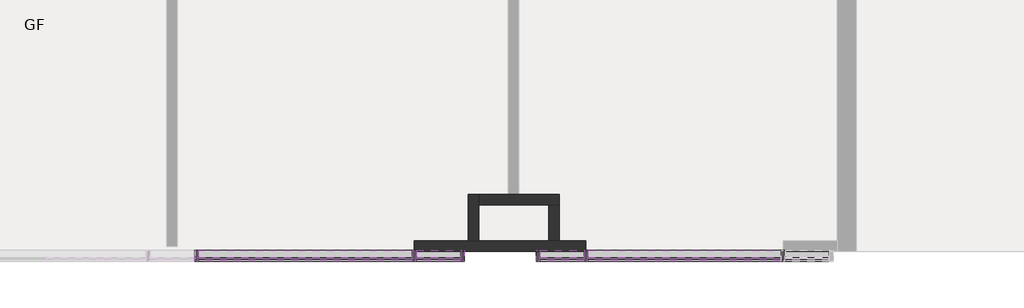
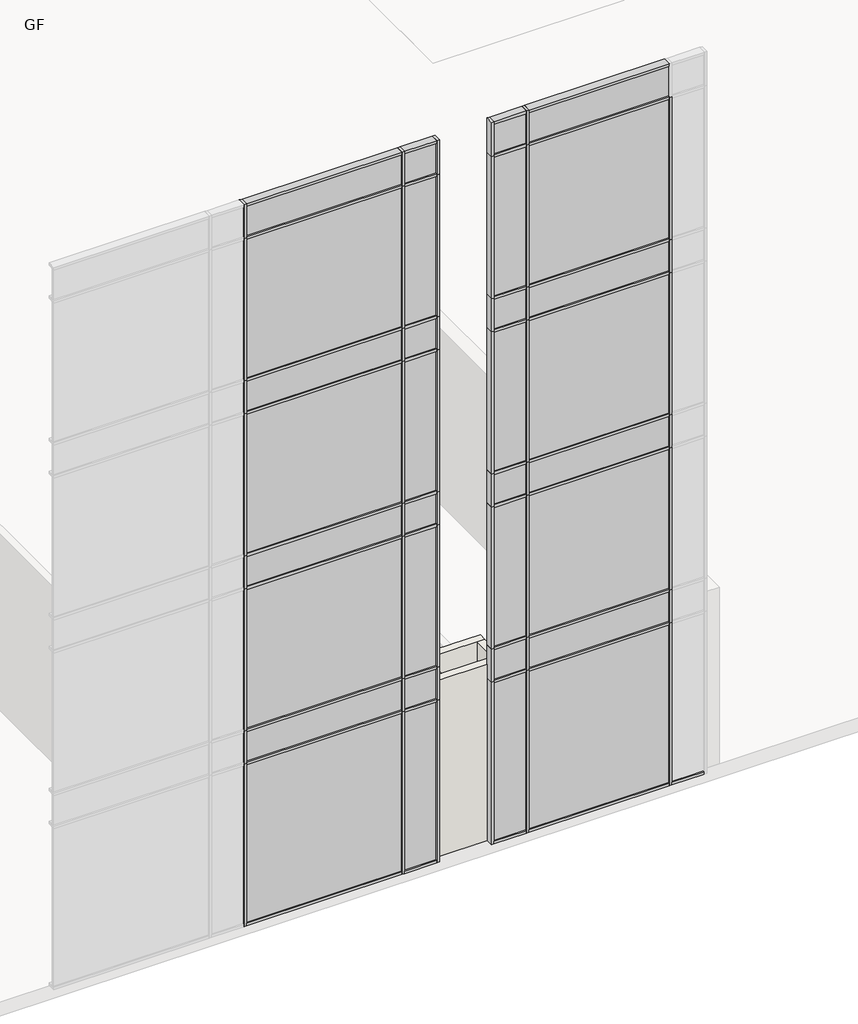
# One storey, part 10 of 23: 84 members, 32 plates, 4 walls.
"""IFC4 building model written with IfcOpenShell, lengths in millimetres."""

from ifc_helpers import new_model, si_unit, frame, origin, place, context, project, spatial, polyline, outline, extrude, faceted_brep, transform, mapped, element, save
from components import rectangular_mullion_50_x_150mm_64d38db8, rectangular_mullion_50_x_150mm_68b3818a, rectangular_mullion_50_x_150mm_350c86c2, rectangular_mullion_50_x_150mm_f245f1eb, rectangular_mullion_50_x_150mm_5fdcfccd, rectangular_mullion_50_x_150mm_d11e3bb4, rectangular_mullion_50_x_150mm_7d543e93, rectangular_mullion_50_x_150mm_9e0f1e24, rectangular_mullion_50_x_150mm_a95743fc, rectangular_mullion_50_x_150mm_dbb82e9e, rectangular_mullion_50_x_150mm_32aaa733, rectangular_mullion_50_x_150mm_9b8962c0, rectangular_mullion_50_x_150mm_7dcb5a67, rectangular_mullion_50_x_150mm_f1d86669, system_panel_glazed_f9f902e6, system_panel_glazed_bf1ddb54, system_panel_glazed_6ff5b55b, system_panel_glazed_2a2db0e8, system_panel_glazed_93ed122c, system_panel_glazed_c1421171, system_panel_glazed_66c44f38, system_panel_glazed_399b1310, system_panel_glazed_5ec2e07d

model = new_model("IFC4")

# Units and contexts
model_context = context("Model", 3, world=origin())
ifc_project = project(units=[si_unit("LENGTHUNIT", "METRE", prefix="MILLI")], contexts=[model_context])

# Site, building, storey
site = spatial("IfcSite", under=ifc_project)
building = spatial("IfcBuilding", under=site)
storey = spatial("IfcBuildingStorey", under=building, Name="GF", Elevation=900.0)

# Members
placement = place(None, origin())
rectangular_mullion_50_x_150mm_shape = rectangular_mullion_50_x_150mm_64d38db8(model_context)
element("IfcMember", 1, ObjectType="Rectangular Mullion : 50 x 150mm", at=placement, inside=storey, context=model_context, shape_type="MappedRepresentation", body=[
    mapped(rectangular_mullion_50_x_150mm_shape, transform((25122.4134101, -25897.6148653, 15125.0), x_axis=(0.0, 0.0, 1.0), y_axis=(0.0, -1.0, 0.0), z_axis=(1.0, 0.0, 0.0))),
])
element("IfcMember", 2, ObjectType="Rectangular Mullion : 50 x 150mm", at=placement, inside=storey, context=model_context, shape_type="MappedRepresentation", body=[
    mapped(rectangular_mullion_50_x_150mm_shape, transform((23452.4134101, -25897.6148653, 15125.0), x_axis=(0.0, 0.0, 1.0), y_axis=(0.0, -1.0, 0.0), z_axis=(1.0, 0.0, 0.0))),
])
element("IfcMember", 3, ObjectType="Rectangular Mullion : 50 x 150mm", at=placement, inside=storey, context=model_context, shape_type="MappedRepresentation", body=[
    mapped(rectangular_mullion_50_x_150mm_shape, transform((24522.4134101, -25897.6148653, 900.0), x_axis=(0.0, 0.0, -1.0), y_axis=(0.0, -1.0, 0.0), z_axis=(-1.0, 0.0, 0.0))),
])
element("IfcMember", 4, ObjectType="Rectangular Mullion : 50 x 150mm", at=placement, inside=storey, context=model_context, shape_type="MappedRepresentation", body=[
    mapped(rectangular_mullion_50_x_150mm_shape, transform((27837.4134101, -25897.6148653, 900.0), x_axis=(0.0, 0.0, -1.0), y_axis=(0.0, -1.0, 0.0), z_axis=(-1.0, 0.0, 0.0))),
])
element("IfcMember", 5, ObjectType="Rectangular Mullion : 50 x 150mm", at=placement, inside=storey, context=model_context, shape_type="MappedRepresentation", body=[
    mapped(rectangular_mullion_50_x_150mm_shape, transform((22852.4134101, -25897.6148653, 900.0), x_axis=(0.0, 0.0, -1.0), y_axis=(0.0, -1.0, 0.0), z_axis=(-1.0, 0.0, 0.0))),
])
rectangular_mullion_50_x_150mm_2_shape = rectangular_mullion_50_x_150mm_68b3818a(model_context)
element("IfcMember", 6, ObjectType="Rectangular Mullion : 50 x 150mm", at=placement, inside=storey, context=model_context, shape_type="MappedRepresentation", body=[
    mapped(rectangular_mullion_50_x_150mm_2_shape, transform((25122.4134101, -25897.6148653, 4750.0), x_axis=(0.0, 0.0, 1.0), y_axis=(0.0, -1.0, 0.0), z_axis=(1.0, 0.0, 0.0))),
])
element("IfcMember", 7, ObjectType="Rectangular Mullion : 50 x 150mm", at=placement, inside=storey, context=model_context, shape_type="MappedRepresentation", body=[
    mapped(rectangular_mullion_50_x_150mm_2_shape, transform((25122.4134101, -25897.6148653, 4100.0), x_axis=(0.0, 0.0, 1.0), y_axis=(0.0, -1.0, 0.0), z_axis=(1.0, 0.0, 0.0))),
])
element("IfcMember", 8, ObjectType="Rectangular Mullion : 50 x 150mm", at=placement, inside=storey, context=model_context, shape_type="MappedRepresentation", body=[
    mapped(rectangular_mullion_50_x_150mm_2_shape, transform((25122.4134101, -25897.6148653, 8200.0), x_axis=(0.0, 0.0, 1.0), y_axis=(0.0, -1.0, 0.0), z_axis=(1.0, 0.0, 0.0))),
])
element("IfcMember", 9, ObjectType="Rectangular Mullion : 50 x 150mm", at=placement, inside=storey, context=model_context, shape_type="MappedRepresentation", body=[
    mapped(rectangular_mullion_50_x_150mm_2_shape, transform((25122.4134101, -25897.6148653, 11650.0), x_axis=(0.0, 0.0, 1.0), y_axis=(0.0, -1.0, 0.0), z_axis=(1.0, 0.0, 0.0))),
])
element("IfcMember", 10, ObjectType="Rectangular Mullion : 50 x 150mm", at=placement, inside=storey, context=model_context, shape_type="MappedRepresentation", body=[
    mapped(rectangular_mullion_50_x_150mm_2_shape, transform((25122.4134101, -25897.6148653, 7550.0), x_axis=(0.0, 0.0, 1.0), y_axis=(0.0, -1.0, 0.0), z_axis=(1.0, 0.0, 0.0))),
])
element("IfcMember", 11, ObjectType="Rectangular Mullion : 50 x 150mm", at=placement, inside=storey, context=model_context, shape_type="MappedRepresentation", body=[
    mapped(rectangular_mullion_50_x_150mm_2_shape, transform((25122.4134101, -25897.6148653, 11000.0), x_axis=(0.0, 0.0, 1.0), y_axis=(0.0, -1.0, 0.0), z_axis=(1.0, 0.0, 0.0))),
])
element("IfcMember", 12, ObjectType="Rectangular Mullion : 50 x 150mm", at=placement, inside=storey, context=model_context, shape_type="MappedRepresentation", body=[
    mapped(rectangular_mullion_50_x_150mm_2_shape, transform((25122.4134101, -25897.6148653, 14450.0), x_axis=(0.0, 0.0, 1.0), y_axis=(0.0, -1.0, 0.0), z_axis=(1.0, 0.0, 0.0))),
])
element("IfcMember", 13, ObjectType="Rectangular Mullion : 50 x 150mm", at=placement, inside=storey, context=model_context, shape_type="MappedRepresentation", body=[
    mapped(rectangular_mullion_50_x_150mm_2_shape, transform((23452.4134101, -25897.6148653, 4100.0), x_axis=(0.0, 0.0, 1.0), y_axis=(0.0, -1.0, 0.0), z_axis=(1.0, 0.0, 0.0))),
])
element("IfcMember", 14, ObjectType="Rectangular Mullion : 50 x 150mm", at=placement, inside=storey, context=model_context, shape_type="MappedRepresentation", body=[
    mapped(rectangular_mullion_50_x_150mm_2_shape, transform((23452.4134101, -25897.6148653, 4750.0), x_axis=(0.0, 0.0, 1.0), y_axis=(0.0, -1.0, 0.0), z_axis=(1.0, 0.0, 0.0))),
])
element("IfcMember", 15, ObjectType="Rectangular Mullion : 50 x 150mm", at=placement, inside=storey, context=model_context, shape_type="MappedRepresentation", body=[
    mapped(rectangular_mullion_50_x_150mm_2_shape, transform((23452.4134101, -25897.6148653, 7550.0), x_axis=(0.0, 0.0, 1.0), y_axis=(0.0, -1.0, 0.0), z_axis=(1.0, 0.0, 0.0))),
])
element("IfcMember", 16, ObjectType="Rectangular Mullion : 50 x 150mm", at=placement, inside=storey, context=model_context, shape_type="MappedRepresentation", body=[
    mapped(rectangular_mullion_50_x_150mm_2_shape, transform((23452.4134101, -25897.6148653, 8200.0), x_axis=(0.0, 0.0, 1.0), y_axis=(0.0, -1.0, 0.0), z_axis=(1.0, 0.0, 0.0))),
])
element("IfcMember", 17, ObjectType="Rectangular Mullion : 50 x 150mm", at=placement, inside=storey, context=model_context, shape_type="MappedRepresentation", body=[
    mapped(rectangular_mullion_50_x_150mm_2_shape, transform((23452.4134101, -25897.6148653, 11000.0), x_axis=(0.0, 0.0, 1.0), y_axis=(0.0, -1.0, 0.0), z_axis=(1.0, 0.0, 0.0))),
])
element("IfcMember", 18, ObjectType="Rectangular Mullion : 50 x 150mm", at=placement, inside=storey, context=model_context, shape_type="MappedRepresentation", body=[
    mapped(rectangular_mullion_50_x_150mm_2_shape, transform((23452.4134101, -25897.6148653, 11650.0), x_axis=(0.0, 0.0, 1.0), y_axis=(0.0, -1.0, 0.0), z_axis=(1.0, 0.0, 0.0))),
])
element("IfcMember", 19, ObjectType="Rectangular Mullion : 50 x 150mm", at=placement, inside=storey, context=model_context, shape_type="MappedRepresentation", body=[
    mapped(rectangular_mullion_50_x_150mm_2_shape, transform((23452.4134101, -25897.6148653, 14450.0), x_axis=(0.0, 0.0, 1.0), y_axis=(0.0, -1.0, 0.0), z_axis=(1.0, 0.0, 0.0))),
])
rectangular_mullion_50_x_150mm_3_shape = rectangular_mullion_50_x_150mm_350c86c2(model_context)
element("IfcMember", 20, ObjectType="Rectangular Mullion : 50 x 150mm", at=placement, inside=storey, context=model_context, shape_type="MappedRepresentation", body=[
    mapped(rectangular_mullion_50_x_150mm_3_shape, transform((25172.4134101, -25897.6148653, 900.0), x_axis=(0.0, 0.0, -1.0), y_axis=(0.0, -1.0, 0.0), z_axis=(-1.0, 0.0, 0.0))),
])
rectangular_mullion_50_x_150mm_4_shape = rectangular_mullion_50_x_150mm_f245f1eb(model_context)
element("IfcMember", 21, ObjectType="Rectangular Mullion : 50 x 150mm", at=placement, inside=storey, context=model_context, shape_type="MappedRepresentation", body=[
    mapped(rectangular_mullion_50_x_150mm_4_shape, transform((25147.4134101, -25897.6148653, 900.0), x_axis=(1.0, 0.0, 0.0), y_axis=(0.0, -1.0, 0.0), z_axis=(0.0, 0.0, -1.0))),
])
element("IfcMember", 22, ObjectType="Rectangular Mullion : 50 x 150mm", at=placement, inside=storey, context=model_context, shape_type="MappedRepresentation", body=[
    mapped(rectangular_mullion_50_x_150mm_4_shape, transform((27812.4134101, -25897.6148653, 900.0), x_axis=(1.0, 0.0, 0.0), y_axis=(0.0, -1.0, 0.0), z_axis=(0.0, 0.0, -1.0))),
])
element("IfcMember", 23, ObjectType="Rectangular Mullion : 50 x 150mm", at=placement, inside=storey, context=model_context, shape_type="MappedRepresentation", body=[
    mapped(rectangular_mullion_50_x_150mm_4_shape, transform((19882.4134101, -25897.6148653, 900.0), x_axis=(1.0, 0.0, 0.0), y_axis=(0.0, -1.0, 0.0), z_axis=(0.0, 0.0, -1.0))),
])
element("IfcMember", 24, ObjectType="Rectangular Mullion : 50 x 150mm", at=placement, inside=storey, context=model_context, shape_type="MappedRepresentation", body=[
    mapped(rectangular_mullion_50_x_150mm_4_shape, transform((22827.4134101, -25897.6148653, 900.0), x_axis=(1.0, 0.0, 0.0), y_axis=(0.0, -1.0, 0.0), z_axis=(0.0, 0.0, -1.0))),
])
element("IfcMember", 25, ObjectType="Rectangular Mullion : 50 x 150mm", at=placement, inside=storey, context=model_context, shape_type="MappedRepresentation", body=[
    mapped(rectangular_mullion_50_x_150mm_3_shape, transform((27787.4134101, -25897.6148653, 15125.0), x_axis=(0.0, 0.0, 1.0), y_axis=(0.0, -1.0, 0.0), z_axis=(1.0, 0.0, 0.0))),
])
rectangular_mullion_50_x_150mm_5_shape = rectangular_mullion_50_x_150mm_5fdcfccd(model_context)
element("IfcMember", 26, ObjectType="Rectangular Mullion : 50 x 150mm", at=placement, inside=storey, context=model_context, shape_type="MappedRepresentation", body=[
    mapped(rectangular_mullion_50_x_150mm_5_shape, transform((27787.4134101, -25897.6148653, 4750.0), x_axis=(0.0, 0.0, 1.0), y_axis=(0.0, -1.0, 0.0), z_axis=(1.0, 0.0, 0.0))),
])
element("IfcMember", 27, ObjectType="Rectangular Mullion : 50 x 150mm", at=placement, inside=storey, context=model_context, shape_type="MappedRepresentation", body=[
    mapped(rectangular_mullion_50_x_150mm_5_shape, transform((27787.4134101, -25897.6148653, 4100.0), x_axis=(0.0, 0.0, 1.0), y_axis=(0.0, -1.0, 0.0), z_axis=(1.0, 0.0, 0.0))),
])
element("IfcMember", 28, ObjectType="Rectangular Mullion : 50 x 150mm", at=placement, inside=storey, context=model_context, shape_type="MappedRepresentation", body=[
    mapped(rectangular_mullion_50_x_150mm_5_shape, transform((27787.4134101, -25897.6148653, 8200.0), x_axis=(0.0, 0.0, 1.0), y_axis=(0.0, -1.0, 0.0), z_axis=(1.0, 0.0, 0.0))),
])
element("IfcMember", 29, ObjectType="Rectangular Mullion : 50 x 150mm", at=placement, inside=storey, context=model_context, shape_type="MappedRepresentation", body=[
    mapped(rectangular_mullion_50_x_150mm_5_shape, transform((27787.4134101, -25897.6148653, 11650.0), x_axis=(0.0, 0.0, 1.0), y_axis=(0.0, -1.0, 0.0), z_axis=(1.0, 0.0, 0.0))),
])
element("IfcMember", 30, ObjectType="Rectangular Mullion : 50 x 150mm", at=placement, inside=storey, context=model_context, shape_type="MappedRepresentation", body=[
    mapped(rectangular_mullion_50_x_150mm_5_shape, transform((27787.4134101, -25897.6148653, 7550.0), x_axis=(0.0, 0.0, 1.0), y_axis=(0.0, -1.0, 0.0), z_axis=(1.0, 0.0, 0.0))),
])
element("IfcMember", 31, ObjectType="Rectangular Mullion : 50 x 150mm", at=placement, inside=storey, context=model_context, shape_type="MappedRepresentation", body=[
    mapped(rectangular_mullion_50_x_150mm_5_shape, transform((27787.4134101, -25897.6148653, 11000.0), x_axis=(0.0, 0.0, 1.0), y_axis=(0.0, -1.0, 0.0), z_axis=(1.0, 0.0, 0.0))),
])
element("IfcMember", 32, ObjectType="Rectangular Mullion : 50 x 150mm", at=placement, inside=storey, context=model_context, shape_type="MappedRepresentation", body=[
    mapped(rectangular_mullion_50_x_150mm_5_shape, transform((27787.4134101, -25897.6148653, 14450.0), x_axis=(0.0, 0.0, 1.0), y_axis=(0.0, -1.0, 0.0), z_axis=(1.0, 0.0, 0.0))),
])
rectangular_mullion_50_x_150mm_6_shape = rectangular_mullion_50_x_150mm_d11e3bb4(model_context)
element("IfcMember", 33, ObjectType="Rectangular Mullion : 50 x 150mm", at=placement, inside=storey, context=model_context, shape_type="MappedRepresentation", body=[
    mapped(rectangular_mullion_50_x_150mm_6_shape, transform((25147.4134101, -25897.6148653, 4750.0), x_axis=(1.0, 0.0, 0.0), y_axis=(0.0, -1.0, 0.0), z_axis=(0.0, 0.0, -1.0))),
])
element("IfcMember", 34, ObjectType="Rectangular Mullion : 50 x 150mm", at=placement, inside=storey, context=model_context, shape_type="MappedRepresentation", body=[
    mapped(rectangular_mullion_50_x_150mm_6_shape, transform((27812.4134101, -25897.6148653, 4750.0), x_axis=(1.0, 0.0, 0.0), y_axis=(0.0, -1.0, 0.0), z_axis=(0.0, 0.0, -1.0))),
])
element("IfcMember", 35, ObjectType="Rectangular Mullion : 50 x 150mm", at=placement, inside=storey, context=model_context, shape_type="MappedRepresentation", body=[
    mapped(rectangular_mullion_50_x_150mm_6_shape, transform((25147.4134101, -25897.6148653, 8200.0), x_axis=(1.0, 0.0, 0.0), y_axis=(0.0, -1.0, 0.0), z_axis=(0.0, 0.0, -1.0))),
])
element("IfcMember", 36, ObjectType="Rectangular Mullion : 50 x 150mm", at=placement, inside=storey, context=model_context, shape_type="MappedRepresentation", body=[
    mapped(rectangular_mullion_50_x_150mm_6_shape, transform((27812.4134101, -25897.6148653, 8200.0), x_axis=(1.0, 0.0, 0.0), y_axis=(0.0, -1.0, 0.0), z_axis=(0.0, 0.0, -1.0))),
])
element("IfcMember", 37, ObjectType="Rectangular Mullion : 50 x 150mm", at=placement, inside=storey, context=model_context, shape_type="MappedRepresentation", body=[
    mapped(rectangular_mullion_50_x_150mm_6_shape, transform((25147.4134101, -25897.6148653, 11650.0), x_axis=(1.0, 0.0, 0.0), y_axis=(0.0, -1.0, 0.0), z_axis=(0.0, 0.0, -1.0))),
])
element("IfcMember", 38, ObjectType="Rectangular Mullion : 50 x 150mm", at=placement, inside=storey, context=model_context, shape_type="MappedRepresentation", body=[
    mapped(rectangular_mullion_50_x_150mm_6_shape, transform((27812.4134101, -25897.6148653, 11650.0), x_axis=(1.0, 0.0, 0.0), y_axis=(0.0, -1.0, 0.0), z_axis=(0.0, 0.0, -1.0))),
])
element("IfcMember", 39, ObjectType="Rectangular Mullion : 50 x 150mm", at=placement, inside=storey, context=model_context, shape_type="MappedRepresentation", body=[
    mapped(rectangular_mullion_50_x_150mm_6_shape, transform((19882.4134101, -25897.6148653, 4750.0), x_axis=(1.0, 0.0, 0.0), y_axis=(0.0, -1.0, 0.0), z_axis=(0.0, 0.0, -1.0))),
])
element("IfcMember", 40, ObjectType="Rectangular Mullion : 50 x 150mm", at=placement, inside=storey, context=model_context, shape_type="MappedRepresentation", body=[
    mapped(rectangular_mullion_50_x_150mm_6_shape, transform((19882.4134101, -25897.6148653, 8200.0), x_axis=(1.0, 0.0, 0.0), y_axis=(0.0, -1.0, 0.0), z_axis=(0.0, 0.0, -1.0))),
])
element("IfcMember", 41, ObjectType="Rectangular Mullion : 50 x 150mm", at=placement, inside=storey, context=model_context, shape_type="MappedRepresentation", body=[
    mapped(rectangular_mullion_50_x_150mm_6_shape, transform((19882.4134101, -25897.6148653, 11650.0), x_axis=(1.0, 0.0, 0.0), y_axis=(0.0, -1.0, 0.0), z_axis=(0.0, 0.0, -1.0))),
])
element("IfcMember", 42, ObjectType="Rectangular Mullion : 50 x 150mm", at=placement, inside=storey, context=model_context, shape_type="MappedRepresentation", body=[
    mapped(rectangular_mullion_50_x_150mm_6_shape, transform((22827.4134101, -25897.6148653, 4750.0), x_axis=(1.0, 0.0, 0.0), y_axis=(0.0, -1.0, 0.0), z_axis=(0.0, 0.0, -1.0))),
])
element("IfcMember", 43, ObjectType="Rectangular Mullion : 50 x 150mm", at=placement, inside=storey, context=model_context, shape_type="MappedRepresentation", body=[
    mapped(rectangular_mullion_50_x_150mm_6_shape, transform((22827.4134101, -25897.6148653, 8200.0), x_axis=(1.0, 0.0, 0.0), y_axis=(0.0, -1.0, 0.0), z_axis=(0.0, 0.0, -1.0))),
])
element("IfcMember", 44, ObjectType="Rectangular Mullion : 50 x 150mm", at=placement, inside=storey, context=model_context, shape_type="MappedRepresentation", body=[
    mapped(rectangular_mullion_50_x_150mm_6_shape, transform((22827.4134101, -25897.6148653, 11650.0), x_axis=(1.0, 0.0, 0.0), y_axis=(0.0, -1.0, 0.0), z_axis=(0.0, 0.0, -1.0))),
])
rectangular_mullion_50_x_150mm_7_shape = rectangular_mullion_50_x_150mm_7d543e93(model_context)
element("IfcMember", 45, ObjectType="Rectangular Mullion : 50 x 150mm", at=placement, inside=storey, context=model_context, shape_type="MappedRepresentation", body=[
    mapped(rectangular_mullion_50_x_150mm_7_shape, transform((25147.4134101, -25897.6148653, 4100.0), x_axis=(1.0, 0.0, 0.0), y_axis=(0.0, -1.0, 0.0), z_axis=(0.0, 0.0, -1.0))),
])
element("IfcMember", 46, ObjectType="Rectangular Mullion : 50 x 150mm", at=placement, inside=storey, context=model_context, shape_type="MappedRepresentation", body=[
    mapped(rectangular_mullion_50_x_150mm_7_shape, transform((27812.4134101, -25897.6148653, 4100.0), x_axis=(1.0, 0.0, 0.0), y_axis=(0.0, -1.0, 0.0), z_axis=(0.0, 0.0, -1.0))),
])
element("IfcMember", 47, ObjectType="Rectangular Mullion : 50 x 150mm", at=placement, inside=storey, context=model_context, shape_type="MappedRepresentation", body=[
    mapped(rectangular_mullion_50_x_150mm_7_shape, transform((25147.4134101, -25897.6148653, 7550.0), x_axis=(1.0, 0.0, 0.0), y_axis=(0.0, -1.0, 0.0), z_axis=(0.0, 0.0, -1.0))),
])
element("IfcMember", 48, ObjectType="Rectangular Mullion : 50 x 150mm", at=placement, inside=storey, context=model_context, shape_type="MappedRepresentation", body=[
    mapped(rectangular_mullion_50_x_150mm_7_shape, transform((27812.4134101, -25897.6148653, 7550.0), x_axis=(1.0, 0.0, 0.0), y_axis=(0.0, -1.0, 0.0), z_axis=(0.0, 0.0, -1.0))),
])
element("IfcMember", 49, ObjectType="Rectangular Mullion : 50 x 150mm", at=placement, inside=storey, context=model_context, shape_type="MappedRepresentation", body=[
    mapped(rectangular_mullion_50_x_150mm_7_shape, transform((25147.4134101, -25897.6148653, 11000.0), x_axis=(1.0, 0.0, 0.0), y_axis=(0.0, -1.0, 0.0), z_axis=(0.0, 0.0, -1.0))),
])
element("IfcMember", 50, ObjectType="Rectangular Mullion : 50 x 150mm", at=placement, inside=storey, context=model_context, shape_type="MappedRepresentation", body=[
    mapped(rectangular_mullion_50_x_150mm_7_shape, transform((27812.4134101, -25897.6148653, 11000.0), x_axis=(1.0, 0.0, 0.0), y_axis=(0.0, -1.0, 0.0), z_axis=(0.0, 0.0, -1.0))),
])
element("IfcMember", 51, ObjectType="Rectangular Mullion : 50 x 150mm", at=placement, inside=storey, context=model_context, shape_type="MappedRepresentation", body=[
    mapped(rectangular_mullion_50_x_150mm_7_shape, transform((19882.4134101, -25897.6148653, 4100.0), x_axis=(1.0, 0.0, 0.0), y_axis=(0.0, -1.0, 0.0), z_axis=(0.0, 0.0, -1.0))),
])
element("IfcMember", 52, ObjectType="Rectangular Mullion : 50 x 150mm", at=placement, inside=storey, context=model_context, shape_type="MappedRepresentation", body=[
    mapped(rectangular_mullion_50_x_150mm_7_shape, transform((19882.4134101, -25897.6148653, 7550.0), x_axis=(1.0, 0.0, 0.0), y_axis=(0.0, -1.0, 0.0), z_axis=(0.0, 0.0, -1.0))),
])
element("IfcMember", 53, ObjectType="Rectangular Mullion : 50 x 150mm", at=placement, inside=storey, context=model_context, shape_type="MappedRepresentation", body=[
    mapped(rectangular_mullion_50_x_150mm_7_shape, transform((19882.4134101, -25897.6148653, 11000.0), x_axis=(1.0, 0.0, 0.0), y_axis=(0.0, -1.0, 0.0), z_axis=(0.0, 0.0, -1.0))),
])
element("IfcMember", 54, ObjectType="Rectangular Mullion : 50 x 150mm", at=placement, inside=storey, context=model_context, shape_type="MappedRepresentation", body=[
    mapped(rectangular_mullion_50_x_150mm_7_shape, transform((22827.4134101, -25897.6148653, 4100.0), x_axis=(1.0, 0.0, 0.0), y_axis=(0.0, -1.0, 0.0), z_axis=(0.0, 0.0, -1.0))),
])
element("IfcMember", 55, ObjectType="Rectangular Mullion : 50 x 150mm", at=placement, inside=storey, context=model_context, shape_type="MappedRepresentation", body=[
    mapped(rectangular_mullion_50_x_150mm_7_shape, transform((22827.4134101, -25897.6148653, 7550.0), x_axis=(1.0, 0.0, 0.0), y_axis=(0.0, -1.0, 0.0), z_axis=(0.0, 0.0, -1.0))),
])
element("IfcMember", 56, ObjectType="Rectangular Mullion : 50 x 150mm", at=placement, inside=storey, context=model_context, shape_type="MappedRepresentation", body=[
    mapped(rectangular_mullion_50_x_150mm_7_shape, transform((22827.4134101, -25897.6148653, 11000.0), x_axis=(1.0, 0.0, 0.0), y_axis=(0.0, -1.0, 0.0), z_axis=(0.0, 0.0, -1.0))),
])
rectangular_mullion_50_x_150mm_8_shape = rectangular_mullion_50_x_150mm_9e0f1e24(model_context)
element("IfcMember", 57, ObjectType="Rectangular Mullion : 50 x 150mm", at=placement, inside=storey, context=model_context, shape_type="MappedRepresentation", body=[
    mapped(rectangular_mullion_50_x_150mm_8_shape, transform((25147.4134101, -25897.6148653, 14450.0), x_axis=(1.0, 0.0, 0.0), y_axis=(0.0, -1.0, 0.0), z_axis=(0.0, 0.0, -1.0))),
])
element("IfcMember", 58, ObjectType="Rectangular Mullion : 50 x 150mm", at=placement, inside=storey, context=model_context, shape_type="MappedRepresentation", body=[
    mapped(rectangular_mullion_50_x_150mm_8_shape, transform((19882.4134101, -25897.6148653, 14450.0), x_axis=(1.0, 0.0, 0.0), y_axis=(0.0, -1.0, 0.0), z_axis=(0.0, 0.0, -1.0))),
])
element("IfcMember", 59, ObjectType="Rectangular Mullion : 50 x 150mm", at=placement, inside=storey, context=model_context, shape_type="MappedRepresentation", body=[
    mapped(rectangular_mullion_50_x_150mm_8_shape, transform((22827.4134101, -25897.6148653, 14450.0), x_axis=(1.0, 0.0, 0.0), y_axis=(0.0, -1.0, 0.0), z_axis=(0.0, 0.0, -1.0))),
])
rectangular_mullion_50_x_150mm_9_shape = rectangular_mullion_50_x_150mm_a95743fc(model_context)
element("IfcMember", 60, ObjectType="Rectangular Mullion : 50 x 150mm", at=placement, inside=storey, context=model_context, shape_type="MappedRepresentation", body=[
    mapped(rectangular_mullion_50_x_150mm_9_shape, transform((23502.4134101, -25897.6148653, 900.0), x_axis=(1.0, 0.0, 0.0), y_axis=(0.0, -1.0, 0.0), z_axis=(0.0, 0.0, -1.0))),
])
rectangular_mullion_50_x_150mm_10_shape = rectangular_mullion_50_x_150mm_dbb82e9e(model_context)
element("IfcMember", 61, ObjectType="Rectangular Mullion : 50 x 150mm", at=placement, inside=storey, context=model_context, shape_type="MappedRepresentation", body=[
    mapped(rectangular_mullion_50_x_150mm_10_shape, transform((24472.4134101, -25897.6148653, 15125.0), x_axis=(-1.0, 0.0, 0.0), y_axis=(0.0, -1.0, 0.0), z_axis=(0.0, 0.0, 1.0))),
])
rectangular_mullion_50_x_150mm_11_shape = rectangular_mullion_50_x_150mm_32aaa733(model_context)
element("IfcMember", 62, ObjectType="Rectangular Mullion : 50 x 150mm", at=placement, inside=storey, context=model_context, shape_type="MappedRepresentation", body=[
    mapped(rectangular_mullion_50_x_150mm_11_shape, transform((23502.4134101, -25897.6148653, 4750.0), x_axis=(1.0, 0.0, 0.0), y_axis=(0.0, -1.0, 0.0), z_axis=(0.0, 0.0, -1.0))),
])
element("IfcMember", 63, ObjectType="Rectangular Mullion : 50 x 150mm", at=placement, inside=storey, context=model_context, shape_type="MappedRepresentation", body=[
    mapped(rectangular_mullion_50_x_150mm_11_shape, transform((23502.4134101, -25897.6148653, 8200.0), x_axis=(1.0, 0.0, 0.0), y_axis=(0.0, -1.0, 0.0), z_axis=(0.0, 0.0, -1.0))),
])
element("IfcMember", 64, ObjectType="Rectangular Mullion : 50 x 150mm", at=placement, inside=storey, context=model_context, shape_type="MappedRepresentation", body=[
    mapped(rectangular_mullion_50_x_150mm_11_shape, transform((23502.4134101, -25897.6148653, 11650.0), x_axis=(1.0, 0.0, 0.0), y_axis=(0.0, -1.0, 0.0), z_axis=(0.0, 0.0, -1.0))),
])
rectangular_mullion_50_x_150mm_12_shape = rectangular_mullion_50_x_150mm_9b8962c0(model_context)
element("IfcMember", 65, ObjectType="Rectangular Mullion : 50 x 150mm", at=placement, inside=storey, context=model_context, shape_type="MappedRepresentation", body=[
    mapped(rectangular_mullion_50_x_150mm_12_shape, transform((24472.4134101, -25897.6148653, 4750.0), x_axis=(-1.0, 0.0, 0.0), y_axis=(0.0, -1.0, 0.0), z_axis=(0.0, 0.0, 1.0))),
])
element("IfcMember", 66, ObjectType="Rectangular Mullion : 50 x 150mm", at=placement, inside=storey, context=model_context, shape_type="MappedRepresentation", body=[
    mapped(rectangular_mullion_50_x_150mm_12_shape, transform((24472.4134101, -25897.6148653, 8200.0), x_axis=(-1.0, 0.0, 0.0), y_axis=(0.0, -1.0, 0.0), z_axis=(0.0, 0.0, 1.0))),
])
element("IfcMember", 67, ObjectType="Rectangular Mullion : 50 x 150mm", at=placement, inside=storey, context=model_context, shape_type="MappedRepresentation", body=[
    mapped(rectangular_mullion_50_x_150mm_12_shape, transform((24472.4134101, -25897.6148653, 11650.0), x_axis=(-1.0, 0.0, 0.0), y_axis=(0.0, -1.0, 0.0), z_axis=(0.0, 0.0, 1.0))),
])
element("IfcMember", 68, ObjectType="Rectangular Mullion : 50 x 150mm", at=placement, inside=storey, context=model_context, shape_type="MappedRepresentation", body=[
    mapped(rectangular_mullion_50_x_150mm_12_shape, transform((23502.4134101, -25897.6148653, 4100.0), x_axis=(1.0, 0.0, 0.0), y_axis=(0.0, -1.0, 0.0), z_axis=(0.0, 0.0, -1.0))),
])
element("IfcMember", 69, ObjectType="Rectangular Mullion : 50 x 150mm", at=placement, inside=storey, context=model_context, shape_type="MappedRepresentation", body=[
    mapped(rectangular_mullion_50_x_150mm_12_shape, transform((23502.4134101, -25897.6148653, 7550.0), x_axis=(1.0, 0.0, 0.0), y_axis=(0.0, -1.0, 0.0), z_axis=(0.0, 0.0, -1.0))),
])
element("IfcMember", 70, ObjectType="Rectangular Mullion : 50 x 150mm", at=placement, inside=storey, context=model_context, shape_type="MappedRepresentation", body=[
    mapped(rectangular_mullion_50_x_150mm_12_shape, transform((23502.4134101, -25897.6148653, 11000.0), x_axis=(1.0, 0.0, 0.0), y_axis=(0.0, -1.0, 0.0), z_axis=(0.0, 0.0, -1.0))),
])
element("IfcMember", 71, ObjectType="Rectangular Mullion : 50 x 150mm", at=placement, inside=storey, context=model_context, shape_type="MappedRepresentation", body=[
    mapped(rectangular_mullion_50_x_150mm_9_shape, transform((24472.4134101, -25897.6148653, 4100.0), x_axis=(-1.0, 0.0, 0.0), y_axis=(0.0, -1.0, 0.0), z_axis=(0.0, 0.0, 1.0))),
])
element("IfcMember", 72, ObjectType="Rectangular Mullion : 50 x 150mm", at=placement, inside=storey, context=model_context, shape_type="MappedRepresentation", body=[
    mapped(rectangular_mullion_50_x_150mm_11_shape, transform((24472.4134101, -25897.6148653, 7550.0), x_axis=(-1.0, 0.0, 0.0), y_axis=(0.0, -1.0, 0.0), z_axis=(0.0, 0.0, 1.0))),
])
element("IfcMember", 73, ObjectType="Rectangular Mullion : 50 x 150mm", at=placement, inside=storey, context=model_context, shape_type="MappedRepresentation", body=[
    mapped(rectangular_mullion_50_x_150mm_11_shape, transform((24472.4134101, -25897.6148653, 11000.0), x_axis=(-1.0, 0.0, 0.0), y_axis=(0.0, -1.0, 0.0), z_axis=(0.0, 0.0, 1.0))),
])
element("IfcMember", 74, ObjectType="Rectangular Mullion : 50 x 150mm", at=placement, inside=storey, context=model_context, shape_type="MappedRepresentation", body=[
    mapped(rectangular_mullion_50_x_150mm_11_shape, transform((24472.4134101, -25897.6148653, 14450.0), x_axis=(-1.0, 0.0, 0.0), y_axis=(0.0, -1.0, 0.0), z_axis=(0.0, 0.0, 1.0))),
])
element("IfcMember", 75, ObjectType="Rectangular Mullion : 50 x 150mm", at=placement, inside=storey, context=model_context, shape_type="MappedRepresentation", body=[
    mapped(rectangular_mullion_50_x_150mm_10_shape, transform((23502.4134101, -25897.6148653, 14450.0), x_axis=(1.0, 0.0, 0.0), y_axis=(0.0, -1.0, 0.0), z_axis=(0.0, 0.0, -1.0))),
])
rectangular_mullion_50_x_150mm_13_shape = rectangular_mullion_50_x_150mm_7dcb5a67(model_context)
element("IfcMember", 76, ObjectType="Rectangular Mullion : 50 x 150mm", at=placement, inside=storey, context=model_context, shape_type="MappedRepresentation", body=[
    mapped(rectangular_mullion_50_x_150mm_13_shape, transform((19907.4134101, -25897.6148653, 900.0), x_axis=(0.0, 0.0, -1.0), y_axis=(0.0, -1.0, 0.0), z_axis=(-1.0, 0.0, 0.0))),
])
element("IfcMember", 77, ObjectType="Rectangular Mullion : 50 x 150mm", at=placement, inside=storey, context=model_context, shape_type="MappedRepresentation", body=[
    mapped(rectangular_mullion_50_x_150mm_13_shape, transform((22802.4134101, -25897.6148653, 15125.0), x_axis=(0.0, 0.0, 1.0), y_axis=(0.0, -1.0, 0.0), z_axis=(1.0, 0.0, 0.0))),
])
rectangular_mullion_50_x_150mm_14_shape = rectangular_mullion_50_x_150mm_f1d86669(model_context)
element("IfcMember", 78, ObjectType="Rectangular Mullion : 50 x 150mm", at=placement, inside=storey, context=model_context, shape_type="MappedRepresentation", body=[
    mapped(rectangular_mullion_50_x_150mm_14_shape, transform((22802.4134101, -25897.6148653, 4100.0), x_axis=(0.0, 0.0, 1.0), y_axis=(0.0, -1.0, 0.0), z_axis=(1.0, 0.0, 0.0))),
])
element("IfcMember", 79, ObjectType="Rectangular Mullion : 50 x 150mm", at=placement, inside=storey, context=model_context, shape_type="MappedRepresentation", body=[
    mapped(rectangular_mullion_50_x_150mm_14_shape, transform((22802.4134101, -25897.6148653, 4750.0), x_axis=(0.0, 0.0, 1.0), y_axis=(0.0, -1.0, 0.0), z_axis=(1.0, 0.0, 0.0))),
])
element("IfcMember", 80, ObjectType="Rectangular Mullion : 50 x 150mm", at=placement, inside=storey, context=model_context, shape_type="MappedRepresentation", body=[
    mapped(rectangular_mullion_50_x_150mm_14_shape, transform((22802.4134101, -25897.6148653, 7550.0), x_axis=(0.0, 0.0, 1.0), y_axis=(0.0, -1.0, 0.0), z_axis=(1.0, 0.0, 0.0))),
])
element("IfcMember", 81, ObjectType="Rectangular Mullion : 50 x 150mm", at=placement, inside=storey, context=model_context, shape_type="MappedRepresentation", body=[
    mapped(rectangular_mullion_50_x_150mm_14_shape, transform((22802.4134101, -25897.6148653, 8200.0), x_axis=(0.0, 0.0, 1.0), y_axis=(0.0, -1.0, 0.0), z_axis=(1.0, 0.0, 0.0))),
])
element("IfcMember", 82, ObjectType="Rectangular Mullion : 50 x 150mm", at=placement, inside=storey, context=model_context, shape_type="MappedRepresentation", body=[
    mapped(rectangular_mullion_50_x_150mm_14_shape, transform((22802.4134101, -25897.6148653, 11000.0), x_axis=(0.0, 0.0, 1.0), y_axis=(0.0, -1.0, 0.0), z_axis=(1.0, 0.0, 0.0))),
])
element("IfcMember", 83, ObjectType="Rectangular Mullion : 50 x 150mm", at=placement, inside=storey, context=model_context, shape_type="MappedRepresentation", body=[
    mapped(rectangular_mullion_50_x_150mm_14_shape, transform((22802.4134101, -25897.6148653, 11650.0), x_axis=(0.0, 0.0, 1.0), y_axis=(0.0, -1.0, 0.0), z_axis=(1.0, 0.0, 0.0))),
])
element("IfcMember", 84, ObjectType="Rectangular Mullion : 50 x 150mm", at=placement, inside=storey, context=model_context, shape_type="MappedRepresentation", body=[
    mapped(rectangular_mullion_50_x_150mm_14_shape, transform((22802.4134101, -25897.6148653, 14450.0), x_axis=(0.0, 0.0, 1.0), y_axis=(0.0, -1.0, 0.0), z_axis=(1.0, 0.0, 0.0))),
])

# Plates
system_panel_glazed_shape = system_panel_glazed_f9f902e6(model_context)
element("IfcPlate", 85, ObjectType="System Panel : Glazed", at=placement, inside=storey, context=model_context, shape_type="MappedRepresentation", body=[
    mapped(system_panel_glazed_shape, transform((24822.4134101, -25897.6148653, 950.0), x_axis=(1.0, 0.0, 0.0), y_axis=(0.0, 1.0, 0.0), z_axis=(0.0, 0.0, 1.0))),
])
element("IfcPlate", 86, ObjectType="System Panel : Glazed", at=placement, inside=storey, context=model_context, shape_type="MappedRepresentation", body=[
    mapped(system_panel_glazed_shape, transform((23152.4134101, -25897.6148653, 950.0), x_axis=(1.0, 0.0, 0.0), y_axis=(0.0, 1.0, 0.0), z_axis=(0.0, 0.0, 1.0))),
])
system_panel_glazed_2_shape = system_panel_glazed_bf1ddb54(model_context)
element("IfcPlate", 87, ObjectType="System Panel : Glazed", at=placement, inside=storey, context=model_context, shape_type="MappedRepresentation", body=[
    mapped(system_panel_glazed_2_shape, transform((26479.9134101, -25897.6148653, 950.0), x_axis=(1.0, 0.0, 0.0), y_axis=(0.0, 1.0, 0.0), z_axis=(0.0, 0.0, 1.0))),
])
system_panel_glazed_3_shape = system_panel_glazed_6ff5b55b(model_context)
element("IfcPlate", 88, ObjectType="System Panel : Glazed", at=placement, inside=storey, context=model_context, shape_type="MappedRepresentation", body=[
    mapped(system_panel_glazed_3_shape, transform((24822.4134101, -25897.6148653, 4775.0), x_axis=(1.0, 0.0, 0.0), y_axis=(0.0, 1.0, 0.0), z_axis=(0.0, 0.0, 1.0))),
])
element("IfcPlate", 89, ObjectType="System Panel : Glazed", at=placement, inside=storey, context=model_context, shape_type="MappedRepresentation", body=[
    mapped(system_panel_glazed_3_shape, transform((24822.4134101, -25897.6148653, 8225.0), x_axis=(1.0, 0.0, 0.0), y_axis=(0.0, 1.0, 0.0), z_axis=(0.0, 0.0, 1.0))),
])
element("IfcPlate", 90, ObjectType="System Panel : Glazed", at=placement, inside=storey, context=model_context, shape_type="MappedRepresentation", body=[
    mapped(system_panel_glazed_3_shape, transform((24822.4134101, -25897.6148653, 11675.0), x_axis=(1.0, 0.0, 0.0), y_axis=(0.0, 1.0, 0.0), z_axis=(0.0, 0.0, 1.0))),
])
element("IfcPlate", 91, ObjectType="System Panel : Glazed", at=placement, inside=storey, context=model_context, shape_type="MappedRepresentation", body=[
    mapped(system_panel_glazed_3_shape, transform((23152.4134101, -25897.6148653, 4775.0), x_axis=(1.0, 0.0, 0.0), y_axis=(0.0, 1.0, 0.0), z_axis=(0.0, 0.0, 1.0))),
])
element("IfcPlate", 92, ObjectType="System Panel : Glazed", at=placement, inside=storey, context=model_context, shape_type="MappedRepresentation", body=[
    mapped(system_panel_glazed_3_shape, transform((23152.4134101, -25897.6148653, 8225.0), x_axis=(1.0, 0.0, 0.0), y_axis=(0.0, 1.0, 0.0), z_axis=(0.0, 0.0, 1.0))),
])
element("IfcPlate", 93, ObjectType="System Panel : Glazed", at=placement, inside=storey, context=model_context, shape_type="MappedRepresentation", body=[
    mapped(system_panel_glazed_3_shape, transform((23152.4134101, -25897.6148653, 11675.0), x_axis=(1.0, 0.0, 0.0), y_axis=(0.0, 1.0, 0.0), z_axis=(0.0, 0.0, 1.0))),
])
system_panel_glazed_4_shape = system_panel_glazed_2a2db0e8(model_context)
element("IfcPlate", 94, ObjectType="System Panel : Glazed", at=placement, inside=storey, context=model_context, shape_type="MappedRepresentation", body=[
    mapped(system_panel_glazed_4_shape, transform((26479.9134101, -25897.6148653, 4775.0), x_axis=(1.0, 0.0, 0.0), y_axis=(0.0, 1.0, 0.0), z_axis=(0.0, 0.0, 1.0))),
])
element("IfcPlate", 95, ObjectType="System Panel : Glazed", at=placement, inside=storey, context=model_context, shape_type="MappedRepresentation", body=[
    mapped(system_panel_glazed_4_shape, transform((26479.9134101, -25897.6148653, 8225.0), x_axis=(1.0, 0.0, 0.0), y_axis=(0.0, 1.0, 0.0), z_axis=(0.0, 0.0, 1.0))),
])
element("IfcPlate", 96, ObjectType="System Panel : Glazed", at=placement, inside=storey, context=model_context, shape_type="MappedRepresentation", body=[
    mapped(system_panel_glazed_4_shape, transform((26479.9134101, -25897.6148653, 11675.0), x_axis=(1.0, 0.0, 0.0), y_axis=(0.0, 1.0, 0.0), z_axis=(0.0, 0.0, 1.0))),
])
system_panel_glazed_5_shape = system_panel_glazed_93ed122c(model_context)
element("IfcPlate", 97, ObjectType="System Panel : Glazed", at=placement, inside=storey, context=model_context, shape_type="MappedRepresentation", body=[
    mapped(system_panel_glazed_5_shape, transform((24822.4134101, -25897.6148653, 4125.0), x_axis=(1.0, 0.0, 0.0), y_axis=(0.0, 1.0, 0.0), z_axis=(0.0, 0.0, 1.0))),
])
element("IfcPlate", 98, ObjectType="System Panel : Glazed", at=placement, inside=storey, context=model_context, shape_type="MappedRepresentation", body=[
    mapped(system_panel_glazed_5_shape, transform((24822.4134101, -25897.6148653, 7575.0), x_axis=(1.0, 0.0, 0.0), y_axis=(0.0, 1.0, 0.0), z_axis=(0.0, 0.0, 1.0))),
])
element("IfcPlate", 99, ObjectType="System Panel : Glazed", at=placement, inside=storey, context=model_context, shape_type="MappedRepresentation", body=[
    mapped(system_panel_glazed_5_shape, transform((24822.4134101, -25897.6148653, 11025.0), x_axis=(1.0, 0.0, 0.0), y_axis=(0.0, 1.0, 0.0), z_axis=(0.0, 0.0, 1.0))),
])
element("IfcPlate", 100, ObjectType="System Panel : Glazed", at=placement, inside=storey, context=model_context, shape_type="MappedRepresentation", body=[
    mapped(system_panel_glazed_5_shape, transform((24822.4134101, -25897.6148653, 14475.0), x_axis=(1.0, 0.0, 0.0), y_axis=(0.0, 1.0, 0.0), z_axis=(0.0, 0.0, 1.0))),
])
element("IfcPlate", 101, ObjectType="System Panel : Glazed", at=placement, inside=storey, context=model_context, shape_type="MappedRepresentation", body=[
    mapped(system_panel_glazed_5_shape, transform((23152.4134101, -25897.6148653, 4125.0), x_axis=(1.0, 0.0, 0.0), y_axis=(0.0, 1.0, 0.0), z_axis=(0.0, 0.0, 1.0))),
])
element("IfcPlate", 102, ObjectType="System Panel : Glazed", at=placement, inside=storey, context=model_context, shape_type="MappedRepresentation", body=[
    mapped(system_panel_glazed_5_shape, transform((23152.4134101, -25897.6148653, 7575.0), x_axis=(1.0, 0.0, 0.0), y_axis=(0.0, 1.0, 0.0), z_axis=(0.0, 0.0, 1.0))),
])
element("IfcPlate", 103, ObjectType="System Panel : Glazed", at=placement, inside=storey, context=model_context, shape_type="MappedRepresentation", body=[
    mapped(system_panel_glazed_5_shape, transform((23152.4134101, -25897.6148653, 11025.0), x_axis=(1.0, 0.0, 0.0), y_axis=(0.0, 1.0, 0.0), z_axis=(0.0, 0.0, 1.0))),
])
element("IfcPlate", 104, ObjectType="System Panel : Glazed", at=placement, inside=storey, context=model_context, shape_type="MappedRepresentation", body=[
    mapped(system_panel_glazed_5_shape, transform((23152.4134101, -25897.6148653, 14475.0), x_axis=(1.0, 0.0, 0.0), y_axis=(0.0, 1.0, 0.0), z_axis=(0.0, 0.0, 1.0))),
])
system_panel_glazed_6_shape = system_panel_glazed_c1421171(model_context)
element("IfcPlate", 105, ObjectType="System Panel : Glazed", at=placement, inside=storey, context=model_context, shape_type="MappedRepresentation", body=[
    mapped(system_panel_glazed_6_shape, transform((26479.9134101, -25897.6148653, 4125.0), x_axis=(1.0, 0.0, 0.0), y_axis=(0.0, 1.0, 0.0), z_axis=(0.0, 0.0, 1.0))),
])
element("IfcPlate", 106, ObjectType="System Panel : Glazed", at=placement, inside=storey, context=model_context, shape_type="MappedRepresentation", body=[
    mapped(system_panel_glazed_6_shape, transform((26479.9134101, -25897.6148653, 7575.0), x_axis=(1.0, 0.0, 0.0), y_axis=(0.0, 1.0, 0.0), z_axis=(0.0, 0.0, 1.0))),
])
element("IfcPlate", 107, ObjectType="System Panel : Glazed", at=placement, inside=storey, context=model_context, shape_type="MappedRepresentation", body=[
    mapped(system_panel_glazed_6_shape, transform((26479.9134101, -25897.6148653, 11025.0), x_axis=(1.0, 0.0, 0.0), y_axis=(0.0, 1.0, 0.0), z_axis=(0.0, 0.0, 1.0))),
])
element("IfcPlate", 108, ObjectType="System Panel : Glazed", at=placement, inside=storey, context=model_context, shape_type="MappedRepresentation", body=[
    mapped(system_panel_glazed_6_shape, transform((26479.9134101, -25897.6148653, 14475.0), x_axis=(1.0, 0.0, 0.0), y_axis=(0.0, 1.0, 0.0), z_axis=(0.0, 0.0, 1.0))),
])
system_panel_glazed_7_shape = system_panel_glazed_66c44f38(model_context)
element("IfcPlate", 109, ObjectType="System Panel : Glazed", at=placement, inside=storey, context=model_context, shape_type="MappedRepresentation", body=[
    mapped(system_panel_glazed_7_shape, transform((21354.9134101, -25897.6148653, 950.0), x_axis=(1.0, 0.0, 0.0), y_axis=(0.0, 1.0, 0.0), z_axis=(0.0, 0.0, 1.0))),
])
system_panel_glazed_8_shape = system_panel_glazed_399b1310(model_context)
element("IfcPlate", 110, ObjectType="System Panel : Glazed", at=placement, inside=storey, context=model_context, shape_type="MappedRepresentation", body=[
    mapped(system_panel_glazed_8_shape, transform((21354.9134101, -25897.6148653, 4775.0), x_axis=(1.0, 0.0, 0.0), y_axis=(0.0, 1.0, 0.0), z_axis=(0.0, 0.0, 1.0))),
])
element("IfcPlate", 111, ObjectType="System Panel : Glazed", at=placement, inside=storey, context=model_context, shape_type="MappedRepresentation", body=[
    mapped(system_panel_glazed_8_shape, transform((21354.9134101, -25897.6148653, 8225.0), x_axis=(1.0, 0.0, 0.0), y_axis=(0.0, 1.0, 0.0), z_axis=(0.0, 0.0, 1.0))),
])
element("IfcPlate", 112, ObjectType="System Panel : Glazed", at=placement, inside=storey, context=model_context, shape_type="MappedRepresentation", body=[
    mapped(system_panel_glazed_8_shape, transform((21354.9134101, -25897.6148653, 11675.0), x_axis=(1.0, 0.0, 0.0), y_axis=(0.0, 1.0, 0.0), z_axis=(0.0, 0.0, 1.0))),
])
system_panel_glazed_9_shape = system_panel_glazed_5ec2e07d(model_context)
element("IfcPlate", 113, ObjectType="System Panel : Glazed", at=placement, inside=storey, context=model_context, shape_type="MappedRepresentation", body=[
    mapped(system_panel_glazed_9_shape, transform((21354.9134101, -25897.6148653, 4125.0), x_axis=(1.0, 0.0, 0.0), y_axis=(0.0, 1.0, 0.0), z_axis=(0.0, 0.0, 1.0))),
])
element("IfcPlate", 114, ObjectType="System Panel : Glazed", at=placement, inside=storey, context=model_context, shape_type="MappedRepresentation", body=[
    mapped(system_panel_glazed_9_shape, transform((21354.9134101, -25897.6148653, 7575.0), x_axis=(1.0, 0.0, 0.0), y_axis=(0.0, 1.0, 0.0), z_axis=(0.0, 0.0, 1.0))),
])
element("IfcPlate", 115, ObjectType="System Panel : Glazed", at=placement, inside=storey, context=model_context, shape_type="MappedRepresentation", body=[
    mapped(system_panel_glazed_9_shape, transform((21354.9134101, -25897.6148653, 11025.0), x_axis=(1.0, 0.0, 0.0), y_axis=(0.0, 1.0, 0.0), z_axis=(0.0, 0.0, 1.0))),
])
element("IfcPlate", 116, ObjectType="System Panel : Glazed", at=placement, inside=storey, context=model_context, shape_type="MappedRepresentation", body=[
    mapped(system_panel_glazed_9_shape, transform((21354.9134101, -25897.6148653, 14475.0), x_axis=(1.0, 0.0, 0.0), y_axis=(0.0, 1.0, 0.0), z_axis=(0.0, 0.0, 1.0))),
])

# Walls
element("IfcWall", 117, ObjectType="wall-115", at=placement, inside=storey, context=model_context, shape_type="Brep", body=[
    faceted_brep([(23699.4134101, -25692.6148653, 900.0), (23699.4134101, -25204.6148653, 900.0), (23699.4134101, -25062.6148653, 900.0), (23699.4134101, -25062.6148653, 4375.0), (23699.4134101, -25204.6148653, 4375.0), (23699.4134101, -25692.6148653, 4375.0), (23557.4134101, -25692.6148653, 900.0), (23557.4134101, -25692.6148653, 4375.0), (23557.4134101, -25062.6148653, 4375.0), (23557.4134101, -25062.6148653, 900.0)], [[[0, 1, 2, 3, 4, 5]], [[6, 7, 8, 9]], [[2, 1, 0, 6, 9]], [[3, 2, 9, 8]], [[0, 5, 7, 6]], [[5, 4, 3, 8, 7]]]),
])
element("IfcWall", 118, ObjectType="wall-115", at=placement, inside=storey, context=model_context, shape_type="Brep", body=[
    faceted_brep([(23699.4134101, -25204.6148653, 900.0), (24645.4134101, -25204.6148653, 900.0), (24787.4134101, -25204.6148653, 900.0), (24787.4134101, -25204.6148653, 4375.0), (24645.4134101, -25204.6148653, 4375.0), (23699.4134101, -25204.6148653, 4375.0), (23699.4134101, -25062.6148653, 900.0), (23699.4134101, -25062.6148653, 4375.0), (24099.9134101, -25062.6148653, 4375.0), (24241.9134101, -25062.6148653, 4375.0), (24787.4134101, -25062.6148653, 4375.0), (24787.4134101, -25062.6148653, 900.0), (24241.9134101, -25062.6148653, 900.0), (24099.9134101, -25062.6148653, 900.0)], [[[0, 1, 2, 3, 4, 5]], [[6, 7, 8, 9, 10, 11, 12, 13]], [[2, 1, 0, 6, 13, 12, 11]], [[3, 2, 11, 10]], [[0, 5, 7, 6]], [[5, 4, 3, 10, 9, 8, 7]]]),
])
element("IfcWall", 119, ObjectType="wall-115", at=placement, inside=storey, context=model_context, shape_type="SweptSolid", body=[
    extrude(outline(polyline([(24645.4134101, -25692.6148653), (24645.4134101, -25204.6148653), (24787.4134101, -25204.6148653), (24787.4134101, -25692.6148653), (24645.4134101, -25692.6148653)])), frame((0.0, 0.0, 900.0), z_axis=(0.0, 0.0, 1.0), x_axis=(1.0, 0.0, 0.0)), (0.0, 0.0, 1.0), 3475.0),
])
element("IfcWall", 120, ObjectType="wall-115", at=placement, inside=storey, context=model_context, shape_type="Brep", body=[
    faceted_brep([(22827.4134101, -25834.6148653, 900.0), (25147.4134101, -25834.6148653, 900.0), (25147.4134101, -25834.6148653, 4375.0), (22827.4134101, -25834.6148653, 4375.0), (22827.4134101, -25692.6148653, 900.0), (22827.4134101, -25692.6148653, 4375.0), (23557.4134101, -25692.6148653, 4375.0), (23699.4134101, -25692.6148653, 4375.0), (24645.4134101, -25692.6148653, 4375.0), (24787.4134101, -25692.6148653, 4375.0), (25147.4134101, -25692.6148653, 4375.0), (25147.4134101, -25692.6148653, 900.0), (24787.4134101, -25692.6148653, 900.0), (24645.4134101, -25692.6148653, 900.0), (23699.4134101, -25692.6148653, 900.0), (23557.4134101, -25692.6148653, 900.0)], [[[0, 1, 2, 3]], [[4, 5, 6, 7, 8, 9, 10, 11, 12, 13, 14, 15]], [[1, 0, 4, 15, 14, 13, 12, 11]], [[2, 1, 11, 10]], [[0, 3, 5, 4]], [[3, 2, 10, 9, 8, 7, 6, 5]]]),
])

save(model, "model.ifc")
